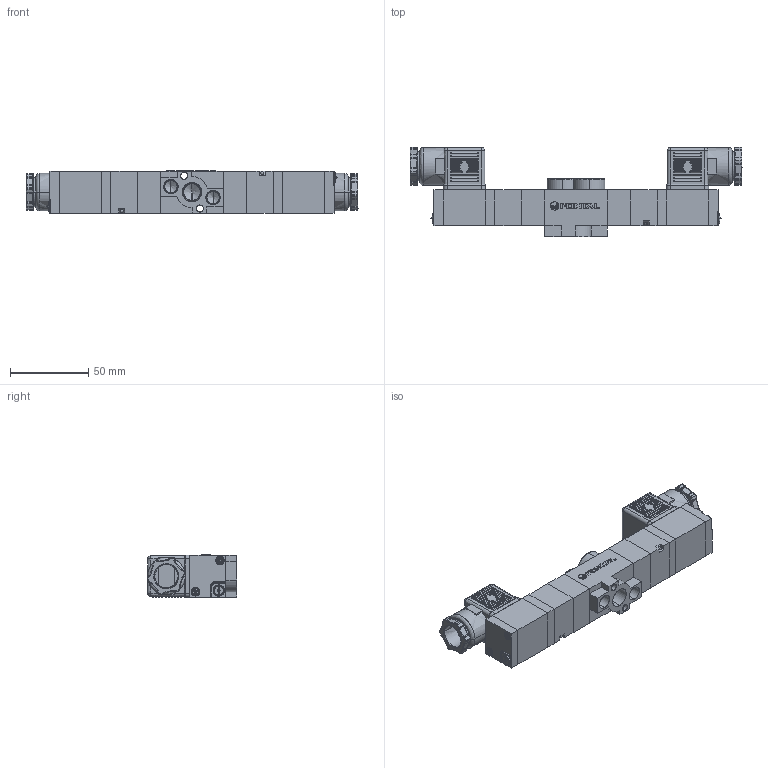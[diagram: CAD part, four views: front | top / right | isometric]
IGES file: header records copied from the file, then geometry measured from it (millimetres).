
Start section: SolidWorks IGES file using analytic representation for surfaces
Global section: file name: D:\Custom\3D繪製\PC\RC06\RCD3406-02-#C##.IGS,1; native system: 5HSolidWorks 2014; preprocessor: SolidWorks 2014; author: Chieh_Lu; date: 150803.214656; units: millimetre
Bounding box: 212.7 x 57.14 x 27.15 mm (x, y, z)
Surface area: 53453 mm2 (no closed solid volume)
Topology: 0 solids, 0 shells, 1341 faces, 10910 edges, 10624 vertices
Faces by surface type: revolution 783, bspline 558
